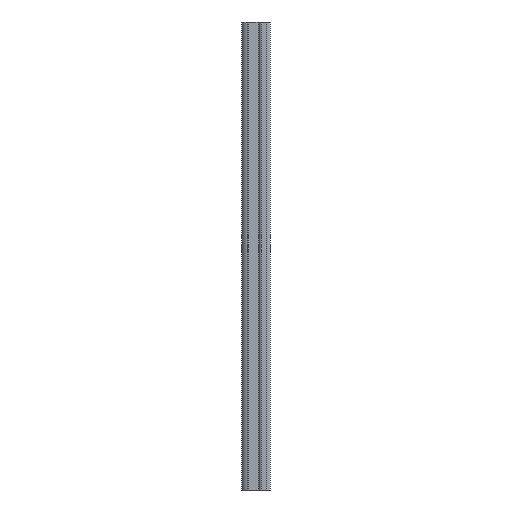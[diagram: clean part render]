
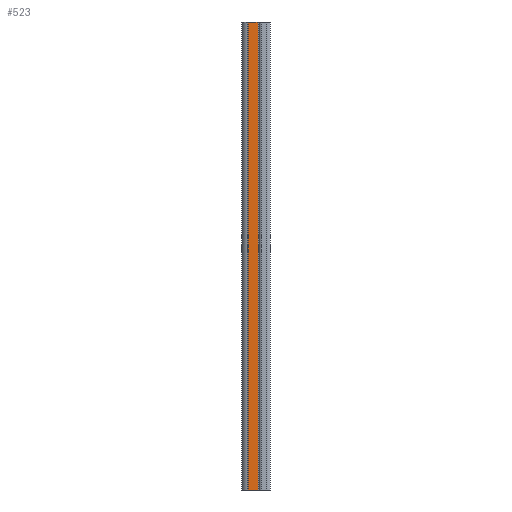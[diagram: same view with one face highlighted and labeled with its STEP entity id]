
A CAD part, left-side view. The second image highlights one B-rep face of the part: STEP entity #523.
In plain terms, the highlighted planar face has unit normal (-1, 0, 0).
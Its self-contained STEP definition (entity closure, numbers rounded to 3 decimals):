
#20 = FACE_OUTER_BOUND ( 'NONE', #1558, .T. ) ;
#38 = ORIENTED_EDGE ( 'NONE', *, *, #632, .T. ) ;
#96 = EDGE_CURVE ( 'NONE', #1624, #824, #1408, .T. ) ;
#247 = CARTESIAN_POINT ( 'NONE',  ( -12.5, 14.137, 500. ) ) ;
#304 = DIRECTION ( 'NONE',  ( 0., -1., 0. ) ) ;
#423 = DIRECTION ( 'NONE',  ( 0., 0., -1. ) ) ;
#490 = CARTESIAN_POINT ( 'NONE',  ( -12.5, -7.1, 500. ) ) ;
#523 = ADVANCED_FACE ( 'NONE', ( #20 ), #1123, .F. ) ;
#583 = LINE ( 'NONE', #1552, #1278 ) ;
#632 = EDGE_CURVE ( 'NONE', #1624, #1252, #1732, .T. ) ;
#680 = ORIENTED_EDGE ( 'NONE', *, *, #924, .T. ) ;
#690 = VECTOR ( 'NONE', #1180, 1000. ) ;
#703 = CARTESIAN_POINT ( 'NONE',  ( -12.5, -12.5, 500. ) ) ;
#732 = DIRECTION ( 'NONE',  ( 0., -1., 0. ) ) ;
#734 = VERTEX_POINT ( 'NONE', #1240 ) ;
#806 = CARTESIAN_POINT ( 'NONE',  ( -12.5, 14.137, -500. ) ) ;
#824 = VERTEX_POINT ( 'NONE', #1724 ) ;
#866 = AXIS2_PLACEMENT_3D ( 'NONE', #1706, #880, #423 ) ;
#880 = DIRECTION ( 'NONE',  ( 1., 0., 0. ) ) ;
#924 = EDGE_CURVE ( 'NONE', #1252, #734, #583, .T. ) ;
#1046 = DIRECTION ( 'NONE',  ( 0., 0., 1. ) ) ;
#1123 = PLANE ( 'NONE',  #866 ) ;
#1180 = DIRECTION ( 'NONE',  ( 0., 0., -1. ) ) ;
#1240 = CARTESIAN_POINT ( 'NONE',  ( -12.5, -7.1, -500. ) ) ;
#1252 = VERTEX_POINT ( 'NONE', #806 ) ;
#1278 = VECTOR ( 'NONE', #304, 1000. ) ;
#1408 = LINE ( 'NONE', #703, #1508 ) ;
#1455 = CARTESIAN_POINT ( 'NONE',  ( -12.5, 14.137, -500. ) ) ;
#1475 = EDGE_CURVE ( 'NONE', #734, #824, #1628, .T. ) ;
#1508 = VECTOR ( 'NONE', #732, 1000. ) ;
#1552 = CARTESIAN_POINT ( 'NONE',  ( -12.5, -12.5, -500. ) ) ;
#1553 = ORIENTED_EDGE ( 'NONE', *, *, #96, .F. ) ;
#1558 = EDGE_LOOP ( 'NONE', ( #1553, #38, #680, #1764 ) ) ;
#1600 = VECTOR ( 'NONE', #1046, 1000. ) ;
#1624 = VERTEX_POINT ( 'NONE', #247 ) ;
#1628 = LINE ( 'NONE', #490, #1600 ) ;
#1706 = CARTESIAN_POINT ( 'NONE',  ( -12.5, -12.5, 500. ) ) ;
#1724 = CARTESIAN_POINT ( 'NONE',  ( -12.5, -7.1, 500. ) ) ;
#1732 = LINE ( 'NONE', #1455, #690 ) ;
#1764 = ORIENTED_EDGE ( 'NONE', *, *, #1475, .T. ) ;
